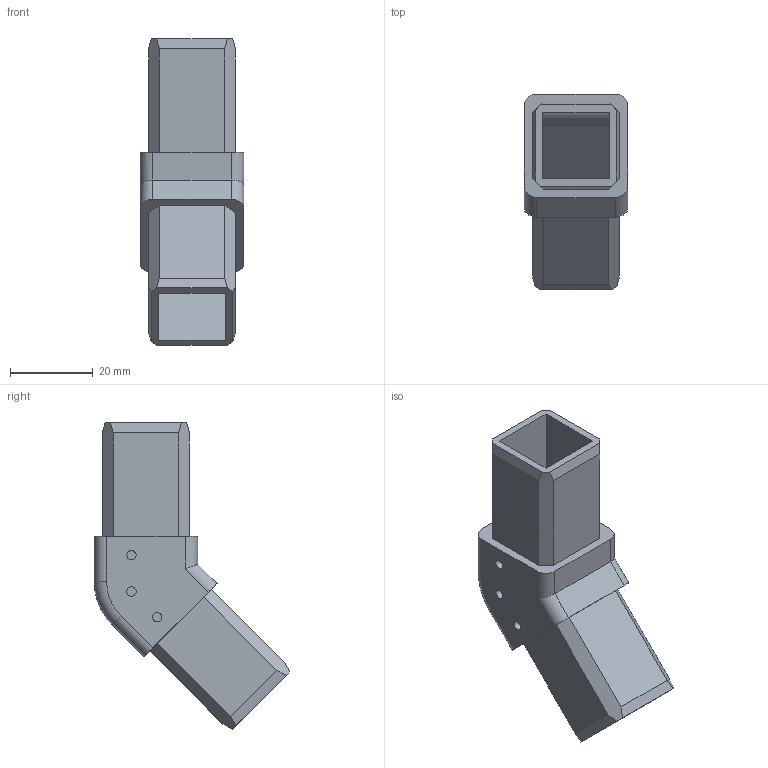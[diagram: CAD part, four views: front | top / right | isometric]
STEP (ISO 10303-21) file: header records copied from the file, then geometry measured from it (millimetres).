
FILE_DESCRIPTION (( 'STEP AP214' ), '1' );
FILE_NAME ('L15809.step', '2024-12-03T16:19:00', ( '' ), ( '' ), 'SwSTEP 2.0', 'SolidWorks 2023', '' );
FILE_SCHEMA (( 'AUTOMOTIVE_DESIGN' ));
Length unit declared in the file: millimetre
Products named in the file (1): L15809
Bounding box: 25 x 47.25 x 74.07 mm (x, y, z)
Volume: 17728.7 mm3; surface area: 12236 mm2
Topology: 1 solids, 1 shells, 55 faces, 150 edges, 99 vertices
Faces by surface type: plane 40, cylinder 13, torus 2
Full cylindrical faces by diameter (mm): 2.25 x3
Entity records: 1721 total; most frequent: CARTESIAN_POINT 302, ORIENTED_EDGE 288, DIRECTION 278, EDGE_CURVE 144, LINE 118, VECTOR 118, VERTEX_POINT 96, AXIS2_PLACEMENT_3D 80
